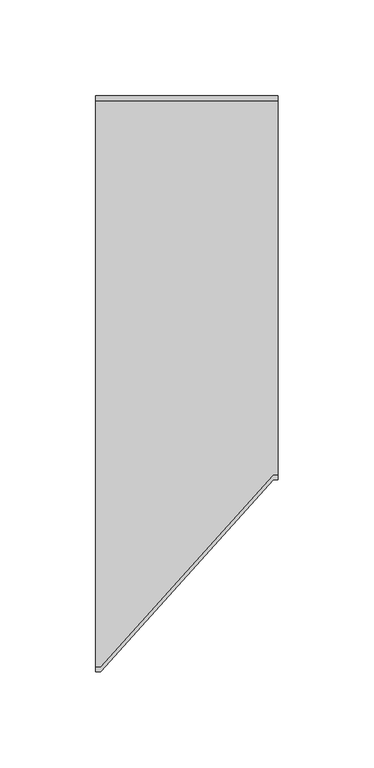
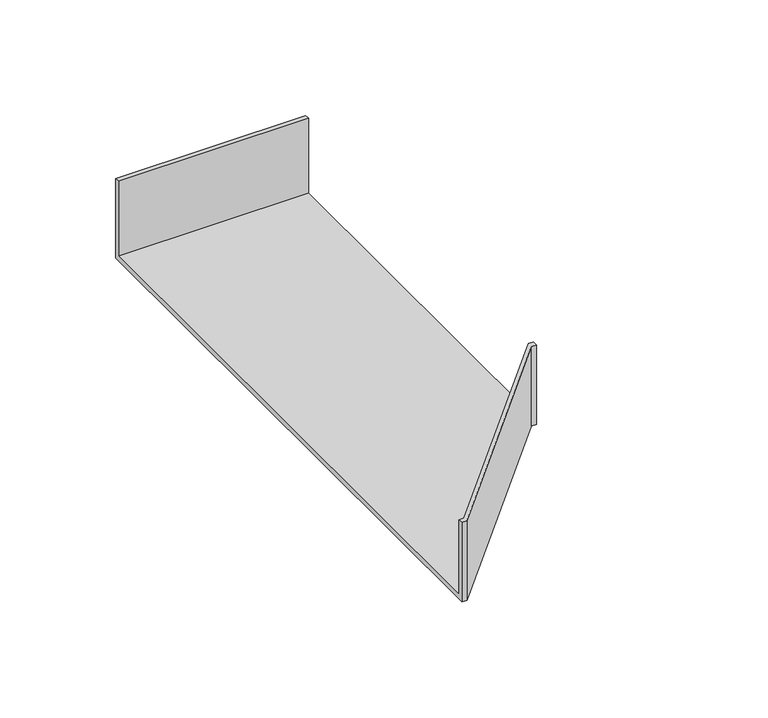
"""IFC4 building model written with IfcOpenShell, lengths in millimetres: cable carrier fitting geometry, BAKS_Reducer : RK(S/L/P)L_H42."""

from ifc_helpers import new_model, si_unit, origin, place, context, project, spatial, faceted_brep, source, transform, mapped, element, save


def cable_carrier_fitting_f138ef00(model_context):
    return source(origin(), model_context, "Body", "Brep", [
        faceted_brep([(0.0, -150.0, -21.0), (0.0, -150.0, 21.0), (0.0, -147.46, 21.0), (0.0, -147.46, -18.46), (0.0, 147.46, -18.46), (0.0, 147.46, 21.0), (0.0, 150.0, 21.0), (0.0, 150.0, -21.0), (95.0, -50.0, -21.0), (95.0, 150.0, -21.0), (95.0, 150.0, 21.0), (95.0, 147.46, 21.0), (95.0, 147.46, -18.46), (95.0, -47.46, -18.46), (95.0, -47.46, 21.0), (95.0, -50.0, 21.0), (2.5, -150.0, -21.0), (2.5, -150.0, 21.0), (92.5, -50.0, 21.0), (92.5, -47.46, 21.0), (2.5, -147.46, 21.0), (2.5, -147.46, -18.46), (92.5, -47.46, -18.46), (92.5, -50.0, -21.0)], [[[0, 1, 2, 3, 4, 5, 6, 7]], [[8, 9, 10, 11, 12, 13, 14, 15]], [[1, 0, 16, 17]], [[2, 1, 17, 18, 15, 14, 19, 20]], [[3, 2, 20, 21]], [[4, 3, 21, 22, 13, 12]], [[5, 4, 12, 11]], [[6, 5, 11, 10]], [[7, 6, 10, 9]], [[0, 7, 9, 8, 23, 16]], [[8, 15, 18, 23]], [[14, 13, 22, 19]], [[22, 21, 20, 19]], [[16, 23, 18, 17]]]),
    ])


if __name__ == "__main__":
    model = new_model("IFC4")
    model_context = context("Model", 3, world=origin())
    ifc_project = project(units=[si_unit("LENGTHUNIT", "METRE", prefix="MILLI")], contexts=[model_context])
    site = spatial("IfcSite", under=ifc_project)
    building = spatial("IfcBuilding", under=site)
    placement = place(None, origin())
    cable_carrier_fitting_shape = cable_carrier_fitting_f138ef00(model_context)
    element("IfcCableCarrierFitting", 1, ObjectType="BAKS_Reducer : RK(S/L/P)L_H42", at=placement, inside=building, context=model_context, shape_type="MappedRepresentation", body=[
        mapped(cable_carrier_fitting_shape, transform((0.0, 0.0, 0.0), x_axis=(1.0, 0.0, 0.0), y_axis=(0.0, 1.0, 0.0), z_axis=(0.0, 0.0, 1.0))),
    ])
    save(model, "model.ifc")
